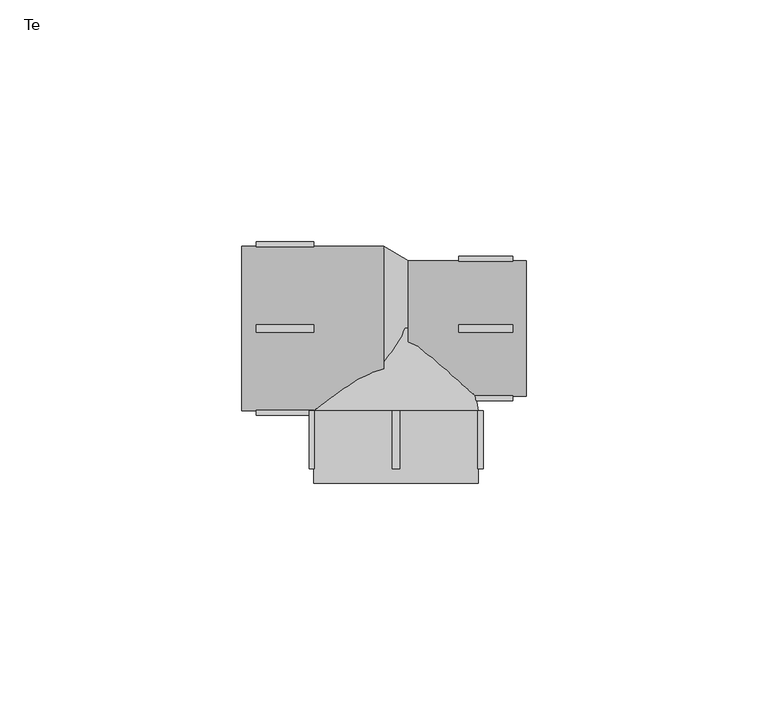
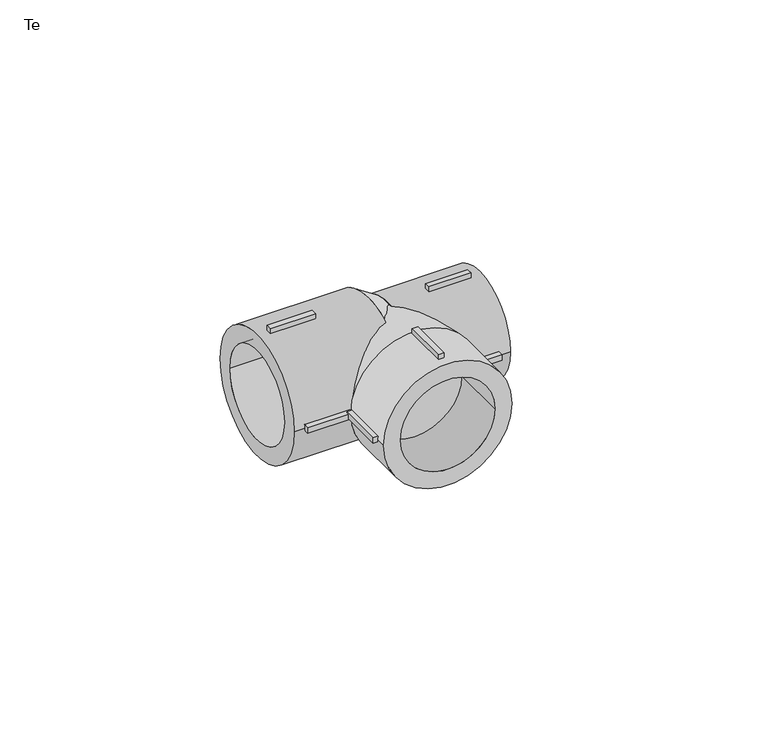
"""IFC4 building model written with IfcOpenShell, lengths in millimetres: pipe fitting geometry, EGB_VASEN_ PPR_Te WXR300_Te reducida WXR310 : Te."""

from ifc_helpers import new_model, si_unit, point, frame, origin, origin_2d, place, context, project, spatial, polyline, circle_curve, trimmed, segment, composite_curve, outline, extrude, source, transform, mapped, element, save
from ifc_brep_helpers import plane_surface, revolved_surface, advanced_brep


def te_34a8affb(model_context):
    return source(origin(), model_context, "Body", "SolidModel", [
        extrude(outline(polyline([(-0.75, -17.0), (0.75, -17.0), (0.75, -29.0), (-0.75, -29.0), (-0.75, -17.0)])), frame((0.0, 0.0, 16.0), z_axis=(0.0, 0.0, 1.0), x_axis=(1.0, 0.0, 0.0)), (0.0, 0.0, 1.0), 2.0),
        extrude(outline(polyline([(-0.75, -17.0), (0.75, -17.0), (0.75, -29.0), (-0.75, -29.0), (-0.75, -17.0)])), frame((0.0, 0.0, -18.0), z_axis=(0.0, 0.0, 1.0), x_axis=(1.0, 0.0, 0.0)), (0.0, 0.0, 1.0), 2.0),
        extrude(outline(polyline([(16.0, -17.0), (18.0, -17.0), (18.0, -29.0), (16.0, -29.0), (16.0, -17.0)])), frame((0.0, 0.0, -0.75), z_axis=(0.0, 0.0, 1.0), x_axis=(1.0, 0.0, 0.0)), (0.0, 0.0, 1.0), 1.5),
        extrude(outline(polyline([(-18.0, -17.0), (-16.0, -17.0), (-16.0, -29.0), (-18.0, -29.0), (-18.0, -17.0)])), frame((0.0, 0.0, -0.75), z_axis=(0.0, 0.0, 1.0), x_axis=(1.0, 0.0, 0.0)), (0.0, 0.0, 1.0), 1.5),
        extrude(outline(polyline([(13.0, -0.75), (13.0, 0.75), (24.2, 0.75), (24.2, -0.75), (13.0, -0.75)])), frame((0.0, 0.0, 13.0), z_axis=(0.0, 0.0, 1.0), x_axis=(1.0, 0.0, 0.0)), (0.0, 0.0, 1.0), 2.0),
        extrude(outline(polyline([(13.0, -0.75), (13.0, 0.75), (24.2, 0.75), (24.2, -0.75), (13.0, -0.75)])), frame((0.0, 0.0, -15.0), z_axis=(0.0, 0.0, 1.0), x_axis=(1.0, 0.0, 0.0)), (0.0, 0.0, 1.0), 2.0),
        extrude(outline(polyline([(13.0, 13.0), (13.0, 15.0), (24.2, 15.0), (24.2, 13.0), (13.0, 13.0)])), frame((0.0, 0.0, -0.75), z_axis=(0.0, 0.0, 1.0), x_axis=(1.0, 0.0, 0.0)), (0.0, 0.0, 1.0), 1.5),
        extrude(outline(polyline([(13.0, -15.0), (13.0, -13.0), (24.2, -13.0), (24.2, -15.0), (13.0, -15.0)])), frame((0.0, 0.0, -0.75), z_axis=(0.0, 0.0, 1.0), x_axis=(1.0, 0.0, 0.0)), (0.0, 0.0, 1.0), 1.5),
        extrude(outline(polyline([(-17.0, 0.75), (-17.0, -0.75), (-29.0, -0.75), (-29.0, 0.75), (-17.0, 0.75)])), frame((0.0, 0.0, 16.0), z_axis=(0.0, 0.0, 1.0), x_axis=(1.0, 0.0, 0.0)), (0.0, 0.0, 1.0), 2.0),
        extrude(outline(polyline([(-17.0, 0.75), (-17.0, -0.75), (-29.0, -0.75), (-29.0, 0.75), (-17.0, 0.75)])), frame((0.0, 0.0, -18.0), z_axis=(0.0, 0.0, 1.0), x_axis=(1.0, 0.0, 0.0)), (0.0, 0.0, 1.0), 2.0),
        extrude(outline(polyline([(-17.0, 18.0), (-17.0, 16.0), (-29.0, 16.0), (-29.0, 18.0), (-17.0, 18.0)])), frame((0.0, 0.0, -0.75), z_axis=(0.0, 0.0, 1.0), x_axis=(1.0, 0.0, 0.0)), (0.0, 0.0, 1.0), 1.5),
        extrude(outline(polyline([(-17.0, -16.0), (-17.0, -18.0), (-29.0, -18.0), (-29.0, -16.0), (-17.0, -16.0)])), frame((0.0, 0.0, -0.75), z_axis=(0.0, 0.0, 1.0), x_axis=(1.0, 0.0, 0.0)), (0.0, 0.0, 1.0), 1.5),
        extrude(outline(composite_curve([segment(trimmed(circle_curve(origin_2d(), 17.0), [point((0.0, 17.0))], [point((0.0, -17.0))], False, "CARTESIAN"), True, "CONTINUOUS"), segment(trimmed(circle_curve(origin_2d(), 17.0), [point((0.0, -17.0))], [point((0.0, 17.0))], False, "CARTESIAN"), True, "CONTINUOUS")], self_intersect=False), holes=[composite_curve([segment(trimmed(circle_curve(origin_2d(), 12.5), [point((0.0, 12.5))], [point((0.0, -12.5))], True, "CARTESIAN"), True, "CONTINUOUS"), segment(trimmed(circle_curve(origin_2d(), 12.5), [point((0.0, -12.5))], [point((0.0, 12.5))], True, "CARTESIAN"), True, "CONTINUOUS")], self_intersect=False)]), frame((0.0, -32.0, 0.0), z_axis=(0.0, 1.0, 0.0), x_axis=(0.0, 0.0, 1.0)), (0.0, 0.0, 1.0), 15.0),
        extrude(outline(composite_curve([segment(trimmed(circle_curve(origin_2d(), 14.0), [point((-14.0, 0.0))], [point((14.0, 0.0))], False, "CARTESIAN"), True, "CONTINUOUS"), segment(trimmed(circle_curve(origin_2d(), 14.0), [point((14.0, 0.0))], [point((-14.0, 0.0))], False, "CARTESIAN"), True, "CONTINUOUS")], self_intersect=False), holes=[composite_curve([segment(trimmed(circle_curve(origin_2d(), 10.0), [point((-10.0, 0.0))], [point((10.0, 0.0))], True, "CARTESIAN"), True, "CONTINUOUS"), segment(trimmed(circle_curve(origin_2d(), 10.0), [point((10.0, 0.0))], [point((-10.0, 0.0))], True, "CARTESIAN"), True, "CONTINUOUS")], self_intersect=False)]), frame((2.52, 0.0, 0.0), z_axis=(1.0, 0.0, 0.0), x_axis=(0.0, 1.0, 0.0)), (0.0, 0.0, 1.0), 24.48),
        extrude(outline(composite_curve([segment(trimmed(circle_curve(origin_2d(), 17.0), [point((-17.0, 0.0))], [point((17.0, 0.0))], False, "CARTESIAN"), True, "CONTINUOUS"), segment(trimmed(circle_curve(origin_2d(), 17.0), [point((17.0, 0.0))], [point((-17.0, 0.0))], False, "CARTESIAN"), True, "CONTINUOUS")], self_intersect=False), holes=[composite_curve([segment(trimmed(circle_curve(origin_2d(), 12.5), [point((-12.5, 0.0))], [point((12.5, 0.0))], True, "CARTESIAN"), True, "CONTINUOUS"), segment(trimmed(circle_curve(origin_2d(), 12.5), [point((12.5, 0.0))], [point((-12.5, 0.0))], True, "CARTESIAN"), True, "CONTINUOUS")], self_intersect=False)]), frame((-32.0, 0.0, 0.0), z_axis=(1.0, 0.0, 0.0), x_axis=(0.0, 1.0, 0.0)), (0.0, 0.0, 1.0), 29.48),
        advanced_brep(
        [(14.0, 0.0, 0.0), (-14.0, 0.0, 0.0), (17.0, -17.0, 0.0), (-17.0, -17.0, 0.0)],
        [
            (0, 1, circle_curve(frame((0.0, 0.0, 0.0), z_axis=(0.0, 1.0, 0.0), x_axis=(1.0, 0.0, 0.0)), 14.0)),
            (1, 0, circle_curve(frame((0.0, 0.0, 0.0), z_axis=(0.0, 1.0, 0.0), x_axis=(-1.0, 0.0, 0.0)), 14.0)),
            (2, 3, circle_curve(frame((0.0, -17.0, 0.0), z_axis=(0.0, -1.0, 0.0), x_axis=(-1.0, 0.0, 0.0)), 17.0)),
            (3, 2, circle_curve(frame((0.0, -17.0, 0.0), z_axis=(0.0, -1.0, 0.0), x_axis=(1.0, 0.0, 0.0)), 17.0)),
            (3, 1),
            (0, 2),
        ],
        [
            plane_surface(frame((0.0, 0.0, 0.0), z_axis=(0.0, 1.0, 0.0), x_axis=(0.0, 0.0, -1.0))),
            plane_surface(frame((0.0, -17.0, 0.0), z_axis=(0.0, -1.0, 0.0), x_axis=(0.0, 0.0, -1.0))),
            revolved_surface(polyline([(13.999999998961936, 0.0, 0.0), (17.0, -17.0, 0.0)]), (0.0, 79.3333333, 0.0), (0.0, -1.0, 0.0)),
            revolved_surface(polyline([(-13.999999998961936, 0.0, 0.0), (-17.0, -17.0, 0.0)]), (0.0, 79.3333333, 0.0), (0.0, -1.0, 0.0)),
        ],
        [
            (0, [[1, 2]]),
            (1, [[3, 4]]),
            (2, [[-4, 5, -1, 6]]),
            (3, [[-3, -6, -2, -5]]),
        ],
    ),
        advanced_brep(
        [(2.52, -14.0, 0.0), (2.52, 14.0, 0.0), (-2.52, -17.0, 0.0), (-2.52, 17.0, 0.0)],
        [
            (0, 1, circle_curve(frame((2.52, 0.0, 0.0), z_axis=(1.0, 0.0, 0.0), x_axis=(0.0, -1.0, 0.0)), 14.0)),
            (1, 0, circle_curve(frame((2.52, 0.0, 0.0), z_axis=(1.0, 0.0, 0.0), x_axis=(0.0, 1.0, 0.0)), 14.0)),
            (2, 3, circle_curve(frame((-2.52, 0.0, 0.0), z_axis=(-1.0, 0.0, 0.0), x_axis=(0.0, 1.0, 0.0)), 17.0)),
            (3, 2, circle_curve(frame((-2.52, 0.0, 0.0), z_axis=(-1.0, 0.0, 0.0), x_axis=(0.0, -1.0, 0.0)), 17.0)),
            (3, 1),
            (0, 2),
        ],
        [
            plane_surface(frame((2.52, 0.0, 0.0), z_axis=(1.0, 0.0, 0.0), x_axis=(0.0, 0.0, -1.0))),
            plane_surface(frame((-2.52, 0.0, 0.0), z_axis=(-1.0, 0.0, 0.0), x_axis=(0.0, 0.0, -1.0))),
            revolved_surface(polyline([(2.5199999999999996, -14.000000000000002, 0.0), (-2.5199999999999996, -17.0, 0.0)]), (26.04, 0.0, 0.0), (-1.0, 0.0, 0.0)),
            revolved_surface(polyline([(2.5199999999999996, 14.000000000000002, 0.0), (-2.5199999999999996, 17.0, 0.0)]), (26.04, 0.0, 0.0), (-1.0, 0.0, 0.0)),
        ],
        [
            (0, [[1, 2]]),
            (1, [[3, 4]]),
            (2, [[-4, 5, -1, 6]]),
            (3, [[-3, -6, -2, -5]]),
        ],
    ),
    ])


if __name__ == "__main__":
    model = new_model("IFC4")
    model_context = context("Model", 3, world=origin())
    ifc_project = project(units=[si_unit("LENGTHUNIT", "METRE", prefix="MILLI")], contexts=[model_context])
    site = spatial("IfcSite", under=ifc_project)
    building = spatial("IfcBuilding", under=site)
    placement = place(None, origin())
    te_shape = te_34a8affb(model_context)
    element("IfcPipeFitting", 1, ObjectType="EGB_VASEN_ PPR_Te WXR300_Te reducida WXR310 : Te", at=placement, inside=building, context=model_context, shape_type="MappedRepresentation", body=[
        mapped(te_shape, transform((0.0, 0.0, 0.0), x_axis=(1.0, 0.0, 0.0), y_axis=(0.0, 1.0, 0.0), z_axis=(0.0, 0.0, 1.0))),
    ])
    save(model, "model.ifc")
